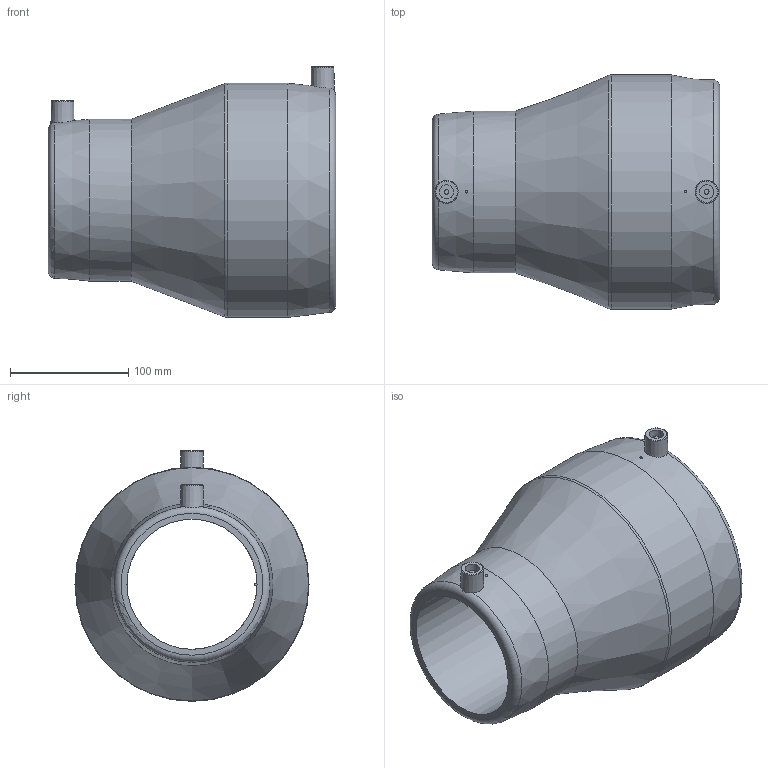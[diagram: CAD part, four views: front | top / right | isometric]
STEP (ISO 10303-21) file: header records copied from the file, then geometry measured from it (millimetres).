
FILE_DESCRIPTION(/* description */ ('Unknown'),/* implementation_level */ '2;1');
FILE_NAME(/* name */ 'REP160110C',/* time_stamp */ '2021-05-25T10:01:02+02:00',/* author */ ('Unknown'),/* organization */ ('Unknown'),/* preprocessor_version */ 'ST-DEVELOPER v16.7',/* originating_system */ 'Solid Edge',/* authorisation */ 'Unknown');
FILE_SCHEMA (('AUTOMOTIVE_DESIGN {1 0 10303 214 3 1 1}'));
Length unit declared in the file: millimetre
Products named in the file (1): REP160110C
Bounding box: 243 x 198 x 212 mm (x, y, z)
Volume: 1991599.8 mm3; surface area: 250963.1 mm2
Topology: 1 solids, 1 shells, 36 faces, 79 edges, 50 vertices
Faces by surface type: plane 15, cylinder 10, cone 6, torus 5
Full cylindrical faces by diameter (mm): 2 x2, 4 x2, 12 x2, 110 x1, 137 x1, 160 x1, 198 x1
Entity records: 849 total; most frequent: CARTESIAN_POINT 177, DIRECTION 142, ORIENTED_EDGE 90, AXIS2_PLACEMENT_3D 66, EDGE_LOOP 65, FACE_BOUND 65, EDGE_CURVE 45, VERTEX_POINT 38
